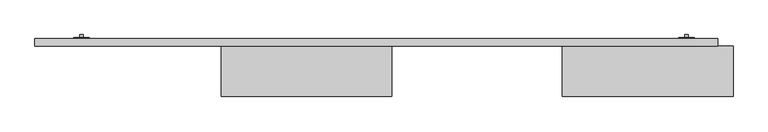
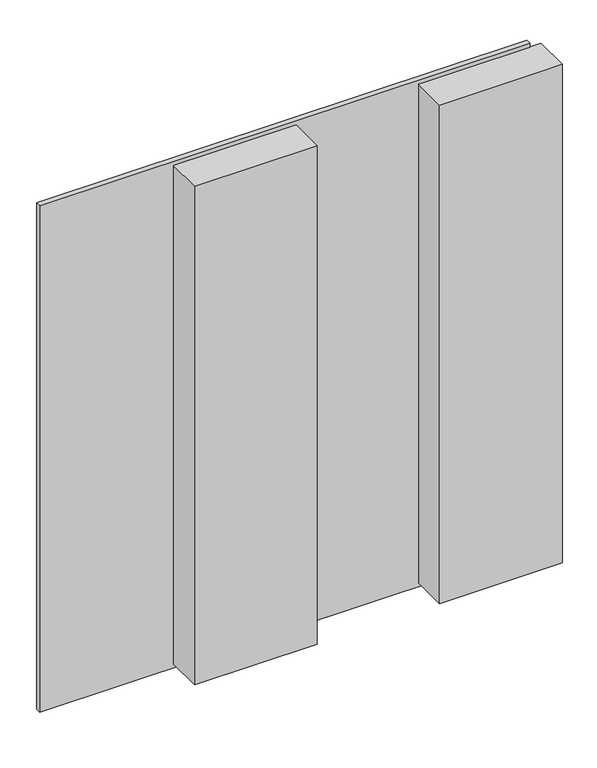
"""IFC4 building model written with IfcOpenShell, lengths in millimetres: proxy geometry, Arktura-SoundForm-Plank-RFA : Arktura-SoundForm-Plank-RFA."""

from ifc_helpers import new_model, si_unit, point, frame, frame_2d, origin, origin_with_axes, place, context, project, spatial, polyline, circle_curve, trimmed, segment, composite_curve, outline, extrude, source, transform, mapped, element, save


def generic_models_32cf8bca(model_context):
    return source(origin(), model_context, "Body", "SweptSolid", [
        extrude(outline(polyline([(-431.8, -31.75), (-457.2, -31.75), (-457.2, -30.3215536), (-431.8, -30.3215536), (-431.8, -31.75)])), frame((0.0, 0.0, 1133.475), z_axis=(0.0, 0.0, 1.0), x_axis=(1.0, 0.0, 0.0)), (0.0, 0.0, 1.0), 25.4),
        extrude(outline(composite_curve([segment(trimmed(circle_curve(frame_2d((1146.175, -444.5)), 3.175), [point((1146.175, -447.675))], [point((1146.175, -441.325))], False, "CARTESIAN"), True, "CONTINUOUS"), segment(trimmed(circle_curve(frame_2d((1146.175, -444.5)), 3.175), [point((1146.175, -441.325))], [point((1146.175, -447.675))], False, "CARTESIAN"), True, "CONTINUOUS")], self_intersect=False)), frame((0.0, -30.3215536, 0.0), z_axis=(0.0, 1.0, 0.0), x_axis=(0.0, 0.0, 1.0)), (0.0, 0.0, 1.0), 4.9215536),
        extrude(outline(polyline([(558.8, -31.75), (533.4, -31.75), (533.4, -30.3215536), (558.8, -30.3215536), (558.8, -31.75)])), frame((0.0, 0.0, 1133.475), z_axis=(0.0, 0.0, 1.0), x_axis=(1.0, 0.0, 0.0)), (0.0, 0.0, 1.0), 25.4),
        extrude(outline(composite_curve([segment(trimmed(circle_curve(frame_2d((1146.175, 546.1)), 3.175), [point((1146.175, 542.925))], [point((1146.175, 549.275))], False, "CARTESIAN"), True, "CONTINUOUS"), segment(trimmed(circle_curve(frame_2d((1146.175, 546.1)), 3.175), [point((1146.175, 549.275))], [point((1146.175, 542.925))], False, "CARTESIAN"), True, "CONTINUOUS")], self_intersect=False)), frame((0.0, -30.3215536, 0.0), z_axis=(0.0, 1.0, 0.0), x_axis=(0.0, 0.0, 1.0)), (0.0, 0.0, 1.0), 4.9215536),
        extrude(outline(polyline([(-431.8, -31.75), (-457.2, -31.75), (-457.2, -30.3215536), (-431.8, -30.3215536), (-431.8, -31.75)])), frame((0.0, 0.0, 60.325), z_axis=(0.0, 0.0, 1.0), x_axis=(1.0, 0.0, 0.0)), (0.0, 0.0, 1.0), 25.4),
        extrude(outline(composite_curve([segment(trimmed(circle_curve(frame_2d((73.025, -444.5)), 3.175), [point((73.025, -447.675))], [point((73.025, -441.325))], False, "CARTESIAN"), True, "CONTINUOUS"), segment(trimmed(circle_curve(frame_2d((73.025, -444.5)), 3.175), [point((73.025, -441.325))], [point((73.025, -447.675))], False, "CARTESIAN"), True, "CONTINUOUS")], self_intersect=False)), frame((0.0, -30.3215536, 0.0), z_axis=(0.0, 1.0, 0.0), x_axis=(0.0, 0.0, 1.0)), (0.0, 0.0, 1.0), 4.9215536),
        extrude(outline(polyline([(558.8, -31.75), (533.4, -31.75), (533.4, -30.3215536), (558.8, -30.3215536), (558.8, -31.75)])), frame((0.0, 0.0, 60.325), z_axis=(0.0, 0.0, 1.0), x_axis=(1.0, 0.0, 0.0)), (0.0, 0.0, 1.0), 25.4),
        extrude(outline(composite_curve([segment(trimmed(circle_curve(frame_2d((73.025, 546.1)), 3.175), [point((73.025, 542.925))], [point((73.025, 549.275))], False, "CARTESIAN"), True, "CONTINUOUS"), segment(trimmed(circle_curve(frame_2d((73.025, 546.1)), 3.175), [point((73.025, 549.275))], [point((73.025, 542.925))], False, "CARTESIAN"), True, "CONTINUOUS")], self_intersect=False)), frame((0.0, -30.3215536, 0.0), z_axis=(0.0, 1.0, 0.0), x_axis=(0.0, 0.0, 1.0)), (0.0, 0.0, 1.0), 4.9215536),
        extrude(outline(polyline([(-520.7, -43.749976), (-520.7, -31.75), (596.9, -31.75), (596.9, -43.749976), (-520.7, -43.749976)])), origin_with_axes(), (0.0, 0.0, 1.0), 1219.2),
        extrude(outline(polyline([(622.3, -127.0), (342.9, -127.0), (342.9, -43.749976), (622.3, -43.749976), (622.3, -127.0)])), frame((0.0, 0.0, 9.525), z_axis=(0.0, 0.0, 1.0), x_axis=(1.0, 0.0, 0.0)), (0.0, 0.0, 1.0), 1200.15),
        extrude(outline(polyline([(-215.9, -127.0), (-215.9, -43.749976), (63.5, -43.749976), (63.5, -127.0), (-215.9, -127.0)])), frame((0.0, 0.0, 9.525), z_axis=(0.0, 0.0, 1.0), x_axis=(1.0, 0.0, 0.0)), (0.0, 0.0, 1.0), 1200.15),
    ])


if __name__ == "__main__":
    model = new_model("IFC4")
    model_context = context("Model", 3, world=origin())
    ifc_project = project(units=[si_unit("LENGTHUNIT", "METRE", prefix="MILLI")], contexts=[model_context])
    site = spatial("IfcSite", under=ifc_project)
    building = spatial("IfcBuilding", under=site)
    placement = place(None, origin())
    generic_models_shape = generic_models_32cf8bca(model_context)
    element("IfcBuildingElementProxy", 1, Name="Arktura-SoundForm-Plank-RFA : Arktura-SoundForm-Plank-RFA", ObjectType="Arktura-SoundForm-Plank-RFA : Arktura-SoundForm-Plank-RFA", at=placement, inside=building, context=model_context, shape_type="MappedRepresentation", body=[
        mapped(generic_models_shape, transform((0.0, 0.0, 0.0), x_axis=(1.0, 0.0, 0.0), y_axis=(0.0, 1.0, 0.0), z_axis=(0.0, 0.0, 1.0))),
    ])
    save(model, "model.ifc")
